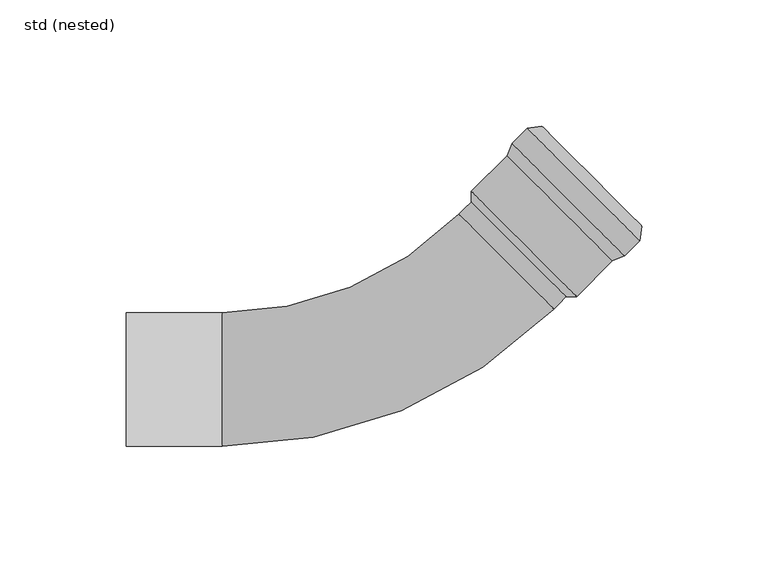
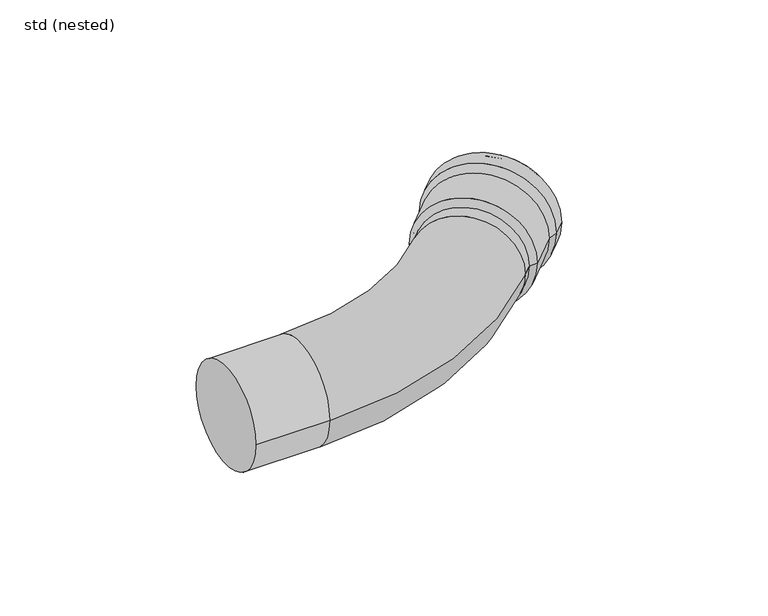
"""IFC4 building model written with IfcOpenShell, lengths in millimetres: pipe fitting geometry, ZZZ_do not use_PIF_ST_UN_GM-X pipe bend_ACO : std (nested)."""

from ifc_helpers import new_model, si_unit, point, frame, origin, place, context, project, spatial, polyline, circle_curve, ellipse_curve, trimmed, source, transform, mapped, element, save
from ifc_brep_helpers import plane_surface, cylinder_surface, revolved_surface, advanced_brep


def std_nested_1b04e4e2(model_context):
    return source(origin(), model_context, "Body", "AdvancedBrep", [
        advanced_brep(
        [(93.5481556, 49.0064546, 0.0), (48.9985452, 93.5522986, 0.0), (54.9379911, 99.4922466, 0.0), (99.4876014, 54.9464026, 0.0), (88.7399132, 47.0263523, 0.0), (47.0188495, 88.7438888, 0.0), (60.8069385, 100.4117335, 0.0), (100.4065921, 60.8154278, 0.0), (74.5983754, 32.8836189, 0.0), (32.8773117, 74.6011553, 0.0), (70.3557347, 32.8834395, 0.0), (32.8774911, 70.3585146, 0.0), (72.4769654, 35.0048495, 0.0), (34.9987217, 72.4799246, 0.0), (87.8913312, 48.2991087, 0.0), (48.2916776, 87.8954144, 0.0), (33.9380167, 73.54054, 0.0), (73.5376704, 33.9442342, 0.0), (92.6995736, 50.2792109, 0.0), (50.2713733, 92.7038242, 0.0), (98.0812756, 55.6613679, 0.0), (55.6530753, 98.0859812, 0.0), (98.9246495, 61.0474751, 0.0), (61.0391111, 98.9298105, 0.0)],
        [
            (0, 1, circle_curve(frame((71.2733504, 71.2793766, 0.0), z_axis=(0.7070768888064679, 0.7071366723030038, 0.0), x_axis=(-0.7071366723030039, 0.707076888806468, 0.0)), 31.5)),
            (1, 2),
            (2, 3, circle_curve(frame((77.2127963, 77.2193246, 0.0), z_axis=(-0.7070768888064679, -0.7071366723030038, 0.0), x_axis=(-0.7071366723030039, 0.707076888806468, 0.0)), 31.5)),
            (3, 0),
            (1, 0, circle_curve(frame((71.2733504, 71.2793766, 0.0), z_axis=(0.7070768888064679, 0.7071366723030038, 0.0), x_axis=(-0.7071366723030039, 0.707076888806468, 0.0)), 31.5)),
            (3, 2, circle_curve(frame((77.2127963, 77.2193246, 0.0), z_axis=(-0.7070768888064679, -0.7071366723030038, 0.0), x_axis=(-0.7071366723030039, 0.707076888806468, 0.0)), 31.5)),
            (4, 5, circle_curve(frame((67.8793813, 67.8851205, 0.0), z_axis=(0.7070768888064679, 0.7071366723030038, 0.0), x_axis=(-0.7071366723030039, 0.707076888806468, 0.0)), 29.5)),
            (5, 1),
            (0, 4),
            (5, 4, circle_curve(frame((67.8793813, 67.8851205, 0.0), z_axis=(0.7070768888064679, 0.7071366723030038, 0.0), x_axis=(-0.7071366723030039, 0.707076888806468, 0.0)), 29.5)),
            (2, 6),
            (6, 7, circle_curve(frame((80.6067653, 80.6135806, 0.0), z_axis=(-0.7070768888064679, -0.7071366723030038, 0.0), x_axis=(-0.7071366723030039, 0.707076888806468, 0.0)), 28.0)),
            (7, 3),
            (7, 6, circle_curve(frame((80.6067653, 80.6135806, 0.0), z_axis=(-0.7070768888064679, -0.7071366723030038, 0.0), x_axis=(-0.7071366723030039, 0.707076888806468, 0.0)), 28.0)),
            (8, 9, circle_curve(frame((53.7378435, 53.7423871, 0.0), z_axis=(0.7070768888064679, 0.7071366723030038, 0.0), x_axis=(-0.7071366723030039, 0.707076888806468, 0.0)), 29.5)),
            (9, 5),
            (4, 8),
            (9, 8, circle_curve(frame((53.7378435, 53.7423871, 0.0), z_axis=(0.7070768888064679, 0.7071366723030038, 0.0), x_axis=(-0.7071366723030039, 0.707076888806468, 0.0)), 29.5)),
            (10, 11, circle_curve(frame((51.6166129, 51.6209771, 0.0), z_axis=(0.7070768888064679, 0.7071366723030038, 0.0), x_axis=(-0.7071366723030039, 0.707076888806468, 0.0)), 26.5)),
            (11, 9),
            (8, 10),
            (11, 10, circle_curve(frame((51.6166129, 51.6209771, 0.0), z_axis=(0.7070768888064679, 0.7071366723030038, 0.0), x_axis=(-0.7071366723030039, 0.707076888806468, 0.0)), 26.5)),
            (12, 13, circle_curve(frame((53.7378435, 53.7423871, 0.0), z_axis=(0.7070768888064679, 0.7071366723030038, 0.0), x_axis=(-0.7071366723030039, 0.707076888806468, 0.0)), 26.5)),
            (13, 11),
            (10, 12),
            (13, 12, circle_curve(frame((53.7378435, 53.7423871, 0.0), z_axis=(0.7070768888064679, 0.7071366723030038, 0.0), x_axis=(-0.7071366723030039, 0.707076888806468, 0.0)), 26.5)),
            (14, 15, circle_curve(frame((68.0915044, 68.0972615, 0.0), z_axis=(0.7070768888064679, 0.7071366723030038, 0.0), x_axis=(-0.7071366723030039, 0.707076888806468, 0.0)), 28.0)),
            (15, 16),
            (16, 17, circle_curve(frame((53.7378435, 53.7423871, 0.0), z_axis=(-0.7070768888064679, -0.7071366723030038, 0.0), x_axis=(-0.7071366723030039, 0.707076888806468, 0.0)), 28.0)),
            (17, 14),
            (15, 14, circle_curve(frame((68.0915044, 68.0972615, 0.0), z_axis=(0.7070768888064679, 0.7071366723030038, 0.0), x_axis=(-0.7071366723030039, 0.707076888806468, 0.0)), 28.0)),
            (17, 16, circle_curve(frame((53.7378435, 53.7423871, 0.0), z_axis=(-0.7070768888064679, -0.7071366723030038, 0.0), x_axis=(-0.7071366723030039, 0.707076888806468, 0.0)), 28.0)),
            (18, 19, circle_curve(frame((71.4854735, 71.4915176, 0.0), z_axis=(0.7070768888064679, 0.7071366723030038, 0.0), x_axis=(-0.7071366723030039, 0.707076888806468, 0.0)), 30.0)),
            (19, 15),
            (14, 18),
            (19, 18, circle_curve(frame((71.4854735, 71.4915176, 0.0), z_axis=(0.7070768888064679, 0.7071366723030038, 0.0), x_axis=(-0.7071366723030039, 0.707076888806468, 0.0)), 30.0)),
            (20, 21, circle_curve(frame((76.8671754, 76.8736746, 0.0), z_axis=(0.7070768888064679, 0.7071366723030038, 0.0), x_axis=(-0.7071366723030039, 0.707076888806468, 0.0)), 30.0)),
            (21, 19),
            (18, 20),
            (21, 20, circle_curve(frame((76.8671754, 76.8736746, 0.0), z_axis=(0.7070768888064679, 0.7071366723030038, 0.0), x_axis=(-0.7071366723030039, 0.707076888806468, 0.0)), 30.0)),
            (22, 23, circle_curve(frame((79.9818803, 79.9886428, 0.0), z_axis=(0.7070768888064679, 0.7071366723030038, 0.0), x_axis=(-0.7071366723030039, 0.707076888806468, 0.0)), 26.7879887)),
            (23, 21),
            (20, 22),
            (23, 22, circle_curve(frame((79.9818803, 79.9886428, 0.0), z_axis=(0.7070768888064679, 0.7071366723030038, 0.0), x_axis=(-0.7071366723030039, 0.707076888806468, 0.0)), 26.7879887)),
            (6, 23),
            (22, 7),
            (16, 13),
            (12, 17),
        ],
        [
            cylinder_surface(frame((78.2341064, 78.2407211, 0.0), z_axis=(-0.707076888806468, -0.7071366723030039, 0.0), x_axis=(-0.7071366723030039, 0.707076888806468, 0.0)), 31.5),
            revolved_surface(polyline([(48.9985452, 93.5522986, 0.0), (47.0188495, 88.7438888, 0.0)]), (78.2341064, 78.2407211, 0.0), (-0.707076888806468, -0.7071366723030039, 0.0)),
            revolved_surface(polyline([(60.8069385, 100.4117335, 0.0), (54.9379911, 99.4922466, 0.0)]), (78.2341064, 78.2407211, 0.0), (-0.707076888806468, -0.7071366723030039, 0.0)),
            cylinder_surface(frame((78.2341064, 78.2407211, 0.0), z_axis=(-0.707076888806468, -0.7071366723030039, 0.0), x_axis=(-0.7071366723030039, 0.707076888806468, 0.0)), 29.5),
            revolved_surface(polyline([(32.8773117, 74.6011553, 0.0), (32.8774911, 70.3585146, 0.0)]), (78.2341064, 78.2407211, 0.0), (-0.707076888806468, -0.7071366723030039, 0.0)),
            revolved_surface(polyline([(32.87749105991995, 70.35851461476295, 0.0), (34.99872173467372, 72.47992464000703, 0.0)]), (78.2341064, 78.2407211, 0.0), (-0.707076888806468, -0.7071366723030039, 0.0)),
            revolved_surface(polyline([(33.93801670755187, 73.54053995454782, 0.0), (48.291677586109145, 87.8954144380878, 0.0)]), (78.2341064, 78.2407211, 0.0), (-0.707076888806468, -0.7071366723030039, 0.0)),
            revolved_surface(polyline([(48.2916776, 87.8954144, 0.0), (50.2713733, 92.7038242, 0.0)]), (78.2341064, 78.2407211, 0.0), (-0.707076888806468, -0.7071366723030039, 0.0)),
            revolved_surface(polyline([(50.27137327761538, 92.7038242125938, 0.0), (55.653075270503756, 98.08598122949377, 0.0)]), (78.2341064, 78.2407211, 0.0), (-0.707076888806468, -0.7071366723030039, 0.0)),
            revolved_surface(polyline([(55.6530753, 98.0859812, 0.0), (61.0391111, 98.9298105, 0.0)]), (78.2341064, 78.2407211, 0.0), (-0.707076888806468, -0.7071366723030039, 0.0)),
            revolved_surface(polyline([(61.0391111, 98.9298105, 0.0), (60.8069385, 100.4117335, 0.0)]), (78.2341064, 78.2407211, 0.0), (-0.707076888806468, -0.7071366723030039, 0.0)),
            plane_surface(frame((53.7378435, 53.7423871, 0.0), z_axis=(0.7070768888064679, 0.7071366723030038, 0.0), x_axis=(-0.7071366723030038, 0.7070768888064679, 0.0))),
        ],
        [
            (0, [[1, 2, 3, 4]]),
            (0, [[5, -4, 6, -2]]),
            (1, [[7, 8, -1, 9]]),
            (1, [[10, -9, -5, -8]]),
            (2, [[-3, 11, 12, 13]]),
            (2, [[-6, -13, 14, -11]]),
            (3, [[15, 16, -7, 17]]),
            (3, [[18, -17, -10, -16]]),
            (4, [[19, 20, -15, 21]]),
            (4, [[22, -21, -18, -20]]),
            (5, [[23, 24, -19, 25]]),
            (5, [[26, -25, -22, -24]]),
            (6, [[27, 28, 29, 30]]),
            (6, [[31, -30, 32, -28]]),
            (7, [[33, 34, -27, 35]]),
            (7, [[36, -35, -31, -34]]),
            (8, [[37, 38, -33, 39]]),
            (8, [[40, -39, -36, -38]]),
            (9, [[41, 42, -37, 43]]),
            (9, [[44, -43, -40, -42]]),
            (10, [[-12, 45, -41, 46]]),
            (10, [[-14, -46, -44, -45]]),
            (11, [[-29, 47, -23, 48]]),
            (11, [[-32, -48, -26, -47]]),
        ],
    ),
        advanced_brep(
        [(27.9279528, 65.4085579, 0.0), (-66.0, 26.5, 0.0), (-66.0, -26.5, 0.0), (65.4061965, 27.9334828, 0.0), (46.6670747, 46.6710204, 26.5), (46.6670747, 46.6710204, -26.5), (-104.0, -26.5, 0.0), (-104.0, 26.5, 0.0), (72.4769654, 35.0048495, 0.0), (34.9987217, 72.4799246, 0.0)],
        [
            (0, 1, circle_curve(frame((-66.0, 159.3285698, 0.0), z_axis=(0.0, 0.0, -1.0), x_axis=(0.0, -1.0, 0.0)), 132.8285698)),
            (1, 2, circle_curve(frame((-66.0, 0.0, 0.0), z_axis=(1.0, 0.0, 0.0), x_axis=(0.0, 1.0, 0.0)), 26.5)),
            (2, 3, circle_curve(frame((-66.0, 159.3285698, 0.0), z_axis=(0.0, 0.0, 1.0), x_axis=(0.0, -1.0, 0.0)), 185.8285698)),
            (3, 4, circle_curve(frame((46.6670747, 46.6710204, 0.0), z_axis=(-0.7070768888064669, -0.7071366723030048, 0.0), x_axis=(-0.7071366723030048, 0.7070768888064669, 0.0)), 26.5)),
            (4, 0, circle_curve(frame((46.6670747, 46.6710204, 0.0), z_axis=(-0.7070768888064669, -0.7071366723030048, 0.0), x_axis=(-0.7071366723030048, 0.7070768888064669, 0.0)), 26.5)),
            (0, 5, circle_curve(frame((46.6670747, 46.6710204, 0.0), z_axis=(-0.7070768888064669, -0.7071366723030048, 0.0), x_axis=(-0.7071366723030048, 0.7070768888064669, 0.0)), 26.5)),
            (5, 3, circle_curve(frame((46.6670747, 46.6710204, 0.0), z_axis=(-0.7070768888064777, -0.707136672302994, 0.0), x_axis=(-0.707136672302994, 0.7070768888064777, 0.0)), 26.5)),
            (2, 1, circle_curve(frame((-66.0, 0.0, 0.0), z_axis=(1.0, 0.0, 0.0), x_axis=(0.0, 1.0, 0.0)), 26.5)),
            (6, 7, circle_curve(frame((-104.0, 0.0, 0.0), z_axis=(-1.0, 0.0, 0.0), x_axis=(0.0, 1.0, 0.0)), 26.5)),
            (7, 6, circle_curve(frame((-104.0, 0.0, 0.0), z_axis=(-1.0, 0.0, 0.0), x_axis=(0.0, 1.0, 0.0)), 26.5)),
            (7, 1),
            (2, 6),
            (8, 9, circle_curve(frame((53.7378435, 53.7423871, 0.0), z_axis=(0.7070768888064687, 0.7071366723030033, 0.0), x_axis=(-0.7071366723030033, 0.7070768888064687, 0.0)), 26.5)),
            (9, 8, circle_curve(frame((53.7378435, 53.7423871, 0.0), z_axis=(0.7070768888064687, 0.7071366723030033, 0.0), x_axis=(-0.7071366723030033, 0.7070768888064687, 0.0)), 26.5)),
            (9, 0),
            (3, 8),
        ],
        [
            revolved_surface(trimmed(ellipse_curve(frame((-66.0, 0.0, 0.0), z_axis=(-1.0, 0.0, 0.0), x_axis=(0.0, 1.0, 0.0)), 26.5, 26.5), [point((-66.0, -26.5, 0.0))], [point((-66.0, 26.5, 0.0))], True, "CARTESIAN"), (-66.0, 159.3285698, 0.0), (0.0, 0.0, 1.0)),
            revolved_surface(trimmed(ellipse_curve(frame((-66.0, 0.0, 0.0), z_axis=(-1.0, 0.0, 0.0), x_axis=(0.0, 1.0, 0.0)), 26.5, 26.5), [point((-66.0, 26.5, 0.0))], [point((-66.0, -26.5, 0.0))], True, "CARTESIAN"), (-66.0, 159.3285698, 0.0), (0.0, 0.0, 1.0)),
            plane_surface(frame((-104.0, 26.5, 0.0), z_axis=(-1.0, 0.0, 0.0), x_axis=(0.0, 0.0, -1.0))),
            cylinder_surface(frame((-104.0, 0.0, 0.0), z_axis=(1.0, 0.0, 0.0), x_axis=(0.0, 1.0, 0.0)), 26.5),
            plane_surface(frame((53.7378435, 53.7423871, 0.0), z_axis=(0.7070768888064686, 0.7071366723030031, 0.0), x_axis=(0.0, 0.0, 1.0))),
            cylinder_surface(frame((46.6670747, 46.6710204, 0.0), z_axis=(-0.7070768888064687, -0.7071366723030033, 0.0), x_axis=(-0.7071366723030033, 0.7070768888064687, 0.0)), 26.5),
        ],
        [
            (0, [[1, 2, 3, 4, 5]]),
            (1, [[-1, 6, 7, -3, 8]]),
            (2, [[9, 10]]),
            (3, [[-10, 11, -8, 12]]),
            (3, [[-9, -12, -2, -11]]),
            (4, [[13, 14]]),
            (5, [[-14, 15, -5, -4, 16]]),
            (5, [[-13, -16, -7, -6, -15]]),
        ],
    ),
    ])


if __name__ == "__main__":
    model = new_model("IFC4")
    model_context = context("Model", 3, world=origin())
    ifc_project = project(units=[si_unit("LENGTHUNIT", "METRE", prefix="MILLI")], contexts=[model_context])
    site = spatial("IfcSite", under=ifc_project)
    building = spatial("IfcBuilding", under=site)
    placement = place(None, origin())
    std_nested_shape = std_nested_1b04e4e2(model_context)
    element("IfcPipeFitting", 1, ObjectType="ZZZ_do not use_PIF_ST_UN_GM-X pipe bend_ACO : std (nested)", at=placement, inside=building, context=model_context, shape_type="MappedRepresentation", body=[
        mapped(std_nested_shape, transform((0.0, 0.0, 0.0), x_axis=(1.0, 0.0, 0.0), y_axis=(0.0, 1.0, 0.0), z_axis=(0.0, 0.0, 1.0))),
    ])
    save(model, "model.ifc")
